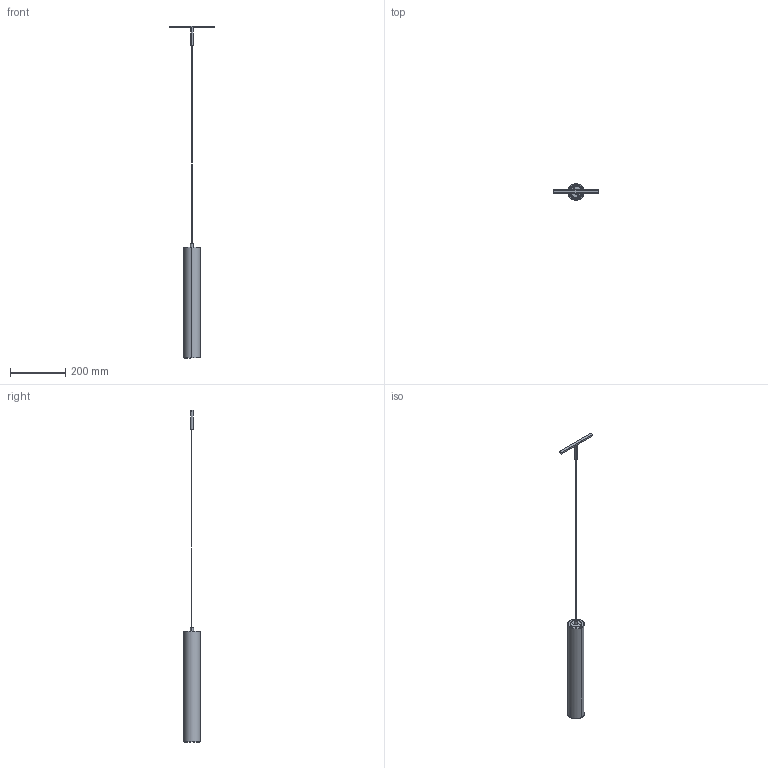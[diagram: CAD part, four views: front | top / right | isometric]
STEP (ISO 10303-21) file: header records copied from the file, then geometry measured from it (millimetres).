
FILE_DESCRIPTION(/* description */ (''),/* implementation_level */ '2;1');
FILE_NAME(/* name */ 'ICONICA TALL - STREAM',/* time_stamp */ '2025-10-30T15:37:51+01:00',/* author */ (''),/* organization */ (''),/* preprocessor_version */ 'ST-DEVELOPER v19.2',/* originating_system */ 'Rhino 8.24',/* authorisation */ '');
FILE_SCHEMA (('CONFIG_CONTROL_DESIGN'));
Length unit declared in the file: millimetre
Products named in the file (1): Document
Bounding box: 160.11 x 60 x 1200 mm (x, y, z)
Volume: 300942.3 mm3; surface area: 195070.9 mm2
Topology: 11 solids, 12 shells, 148 faces, 437 edges, 295 vertices
Faces by surface type: cylinder 62, bspline 50, plane 36
Entity records: 7352 total; most frequent: CARTESIAN_POINT 3612, ORIENTED_EDGE 821, DIRECTION 556, EDGE_CURVE 411, AXIS2_PLACEMENT_3D 327, VERTEX_POINT 295, CIRCLE 226, TRIMMED_CURVE 225
